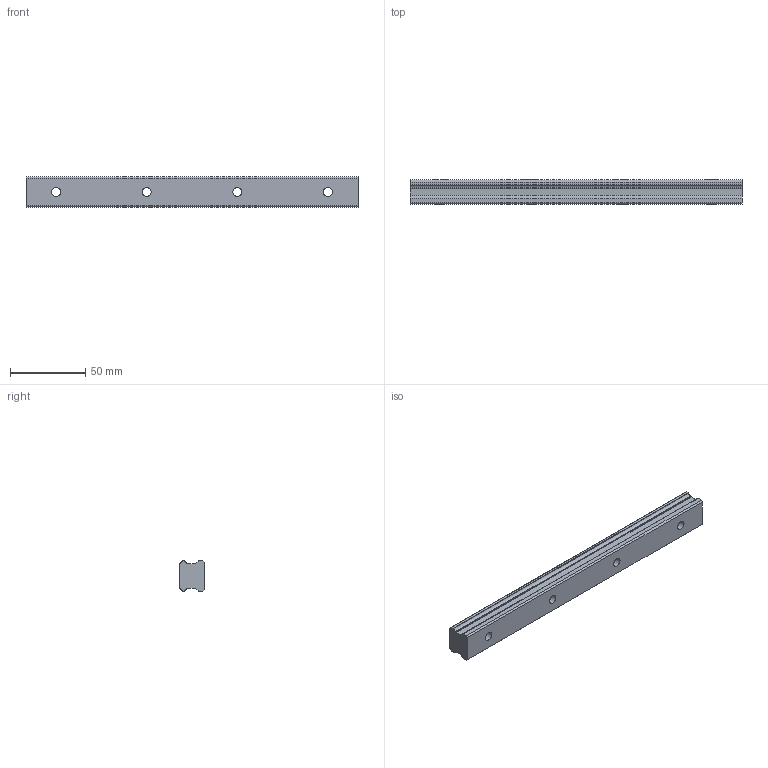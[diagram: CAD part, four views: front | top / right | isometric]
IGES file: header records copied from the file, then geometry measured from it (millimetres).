
Start section: Data from Parasolid IGES Translator 26.0.171, Copyright(c) 2006 Siemens PLM Software. All Rights Reserved.
Global section: file name: SHS20-220L(GK) RAIL(20).igs; native system: By Siemens PLM Incorporated; preprocessor: XPlus GENERIC/IGES 26.0.171; author: Noname; organization: Noname; date: 20240514.034137; units: millimetre
Bounding box: 220 x 16.5 x 20 mm (x, y, z)
Surface area: 18157 mm2 (no closed solid volume)
Topology: 0 solids, 0 shells, 48 faces, 252 edges, 236 vertices
Faces by surface type: revolution 28, extrusion 20
